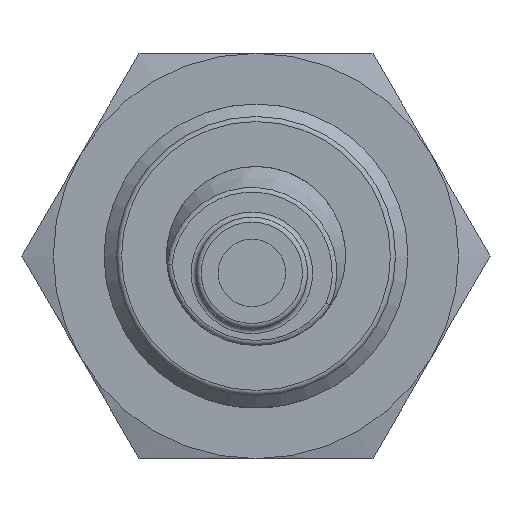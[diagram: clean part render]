
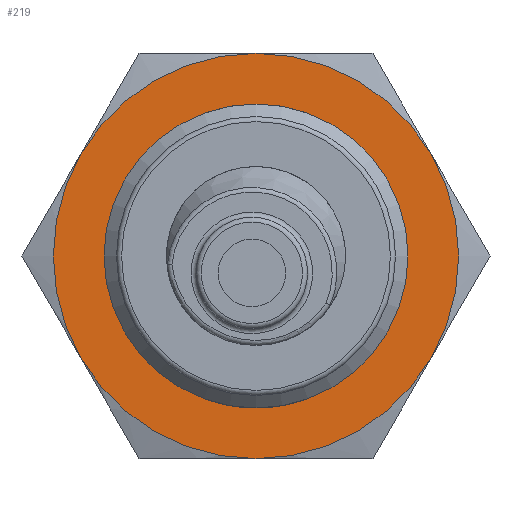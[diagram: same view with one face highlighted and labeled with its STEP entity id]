
A CAD part, left-side view. The second image highlights one B-rep face of the part: STEP entity #219.
In plain terms, the highlighted planar face has unit normal (-1, 0, 0).
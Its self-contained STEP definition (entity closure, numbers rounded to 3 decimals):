
#219 = ADVANCED_FACE( '', ( #326, #327 ), #328, .T. );
#326 = FACE_BOUND( '', #447, .T. );
#327 = FACE_OUTER_BOUND( '', #448, .T. );
#328 = PLANE( '', #449 );
#447 = EDGE_LOOP( '', ( #717 ) );
#448 = EDGE_LOOP( '', ( #718, #719, #720, #721, #722, #723 ) );
#449 = AXIS2_PLACEMENT_3D( '', #724, #725, #726 );
#717 = ORIENTED_EDGE( '', *, *, #859, .T. );
#718 = ORIENTED_EDGE( '', *, *, #860, .F. );
#719 = ORIENTED_EDGE( '', *, *, #861, .F. );
#720 = ORIENTED_EDGE( '', *, *, #822, .F. );
#721 = ORIENTED_EDGE( '', *, *, #862, .F. );
#722 = ORIENTED_EDGE( '', *, *, #825, .F. );
#723 = ORIENTED_EDGE( '', *, *, #863, .F. );
#724 = CARTESIAN_POINT( '', ( 0., 12., 0. ) );
#725 = DIRECTION( '', ( -1., 0., 0. ) );
#726 = DIRECTION( '', ( 0., 0., 1. ) );
#822 = EDGE_CURVE( '', #934, #932, #936, .T. );
#825 = EDGE_CURVE( '', #940, #938, #942, .T. );
#859 = EDGE_CURVE( '', #995, #995, #996, .T. );
#860 = EDGE_CURVE( '', #974, #953, #997, .T. );
#861 = EDGE_CURVE( '', #932, #974, #998, .T. );
#862 = EDGE_CURVE( '', #938, #934, #999, .T. );
#863 = EDGE_CURVE( '', #953, #940, #1000, .T. );
#932 = VERTEX_POINT( '', #1144 );
#934 = VERTEX_POINT( '', #1151 );
#936 = CIRCLE( '', #1158, 12. );
#938 = VERTEX_POINT( '', #1160 );
#940 = VERTEX_POINT( '', #1167 );
#942 = CIRCLE( '', #1174, 12. );
#953 = VERTEX_POINT( '', #1202 );
#974 = VERTEX_POINT( '', #1244 );
#995 = VERTEX_POINT( '', #1333 );
#996 = CIRCLE( '', #1334, 9. );
#997 = CIRCLE( '', #1335, 12. );
#998 = CIRCLE( '', #1336, 12. );
#999 = CIRCLE( '', #1337, 12. );
#1000 = CIRCLE( '', #1338, 12. );
#1144 = CARTESIAN_POINT( '', ( 0., 0., -12. ) );
#1151 = CARTESIAN_POINT( '', ( 0., -10.392, -6. ) );
#1158 = AXIS2_PLACEMENT_3D( '', #1420, #1421, #1422 );
#1160 = CARTESIAN_POINT( '', ( 0., -10.392, 6. ) );
#1167 = CARTESIAN_POINT( '', ( 0., 0., 12. ) );
#1174 = AXIS2_PLACEMENT_3D( '', #1423, #1424, #1425 );
#1202 = CARTESIAN_POINT( '', ( 0., 10.392, 6. ) );
#1244 = CARTESIAN_POINT( '', ( 0., 10.392, -6. ) );
#1333 = CARTESIAN_POINT( '', ( 0., 0., -9. ) );
#1334 = AXIS2_PLACEMENT_3D( '', #1453, #1454, #1455 );
#1335 = AXIS2_PLACEMENT_3D( '', #1456, #1457, #1458 );
#1336 = AXIS2_PLACEMENT_3D( '', #1459, #1460, #1461 );
#1337 = AXIS2_PLACEMENT_3D( '', #1462, #1463, #1464 );
#1338 = AXIS2_PLACEMENT_3D( '', #1465, #1466, #1467 );
#1420 = CARTESIAN_POINT( '', ( 0., 0., 0. ) );
#1421 = DIRECTION( '', ( 1., 0., 0. ) );
#1422 = DIRECTION( '', ( 0., 0., -1. ) );
#1423 = CARTESIAN_POINT( '', ( 0., 0., 0. ) );
#1424 = DIRECTION( '', ( 1., 0., 0. ) );
#1425 = DIRECTION( '', ( 0., 0., -1. ) );
#1453 = CARTESIAN_POINT( '', ( 0., 0., 0. ) );
#1454 = DIRECTION( '', ( 1., 0., 0. ) );
#1455 = DIRECTION( '', ( 0., 0., -1. ) );
#1456 = CARTESIAN_POINT( '', ( 0., 0., 0. ) );
#1457 = DIRECTION( '', ( 1., 0., 0. ) );
#1458 = DIRECTION( '', ( 0., 0., -1. ) );
#1459 = CARTESIAN_POINT( '', ( 0., 0., 0. ) );
#1460 = DIRECTION( '', ( 1., 0., 0. ) );
#1461 = DIRECTION( '', ( 0., 0., -1. ) );
#1462 = CARTESIAN_POINT( '', ( 0., 0., 0. ) );
#1463 = DIRECTION( '', ( 1., 0., 0. ) );
#1464 = DIRECTION( '', ( 0., 0., -1. ) );
#1465 = CARTESIAN_POINT( '', ( 0., 0., 0. ) );
#1466 = DIRECTION( '', ( 1., 0., 0. ) );
#1467 = DIRECTION( '', ( 0., 0., -1. ) );
